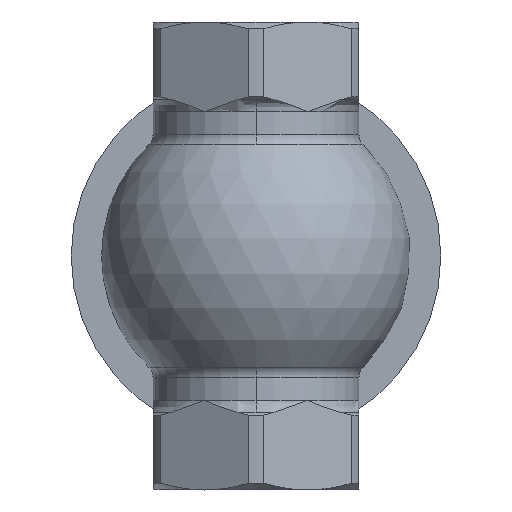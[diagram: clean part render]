
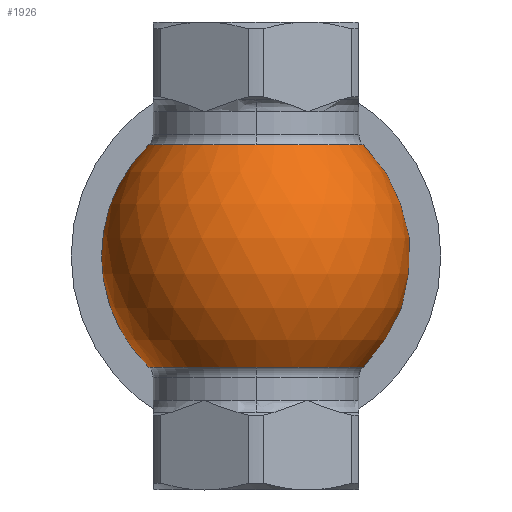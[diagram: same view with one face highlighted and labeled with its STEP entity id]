
A CAD part, front view. The second image highlights one B-rep face of the part: STEP entity #1926.
In plain terms, the highlighted spherical face has radius 16.5 mm.
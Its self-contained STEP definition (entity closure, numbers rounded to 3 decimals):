
#39=SPHERICAL_SURFACE('',#2147,16.5);
#151=FACE_BOUND('',#545,.T.);
#410=FACE_OUTER_BOUND('',#544,.T.);
#544=EDGE_LOOP('',(#1419,#1420,#1421,#1422,#1423,#1424,#1425,#1426));
#545=EDGE_LOOP('',(#1427));
#670=CIRCLE('',#2074,11.5);
#714=CIRCLE('',#2146,11.458);
#715=CIRCLE('',#2148,11.458);
#716=CIRCLE('',#2149,16.5);
#717=CIRCLE('',#2150,11.458);
#718=CIRCLE('',#2151,11.458);
#719=CIRCLE('',#2152,11.458);
#720=CIRCLE('',#2153,11.458);
#816=VERTEX_POINT('',#2992);
#875=VERTEX_POINT('',#3272);
#876=VERTEX_POINT('',#3274);
#877=VERTEX_POINT('',#3278);
#878=VERTEX_POINT('',#3279);
#879=VERTEX_POINT('',#3281);
#880=VERTEX_POINT('',#3285);
#1002=EDGE_CURVE('',#816,#816,#670,.T.);
#1094=EDGE_CURVE('',#876,#875,#714,.T.);
#1095=EDGE_CURVE('',#877,#878,#715,.T.);
#1096=EDGE_CURVE('',#878,#879,#716,.T.);
#1097=EDGE_CURVE('',#875,#879,#717,.T.);
#1098=EDGE_CURVE('',#879,#876,#718,.T.);
#1099=EDGE_CURVE('',#878,#880,#719,.T.);
#1100=EDGE_CURVE('',#880,#877,#720,.T.);
#1419=ORIENTED_EDGE('',*,*,#1095,.T.);
#1420=ORIENTED_EDGE('',*,*,#1096,.T.);
#1421=ORIENTED_EDGE('',*,*,#1097,.F.);
#1422=ORIENTED_EDGE('',*,*,#1094,.F.);
#1423=ORIENTED_EDGE('',*,*,#1098,.F.);
#1424=ORIENTED_EDGE('',*,*,#1096,.F.);
#1425=ORIENTED_EDGE('',*,*,#1099,.T.);
#1426=ORIENTED_EDGE('',*,*,#1100,.T.);
#1427=ORIENTED_EDGE('',*,*,#1002,.T.);
#1926=ADVANCED_FACE('',(#410,#151),#39,.T.);
#2074=AXIS2_PLACEMENT_3D('',#2994,#2366,#2367);
#2146=AXIS2_PLACEMENT_3D('',#3276,#2526,#2527);
#2147=AXIS2_PLACEMENT_3D('',#3277,#2528,#2529);
#2148=AXIS2_PLACEMENT_3D('',#3280,#2530,#2531);
#2149=AXIS2_PLACEMENT_3D('',#3282,#2532,#2533);
#2150=AXIS2_PLACEMENT_3D('',#3283,#2534,#2535);
#2151=AXIS2_PLACEMENT_3D('',#3284,#2536,#2537);
#2152=AXIS2_PLACEMENT_3D('',#3286,#2538,#2539);
#2153=AXIS2_PLACEMENT_3D('',#3287,#2540,#2541);
#2366=DIRECTION('center_axis',(0.,0.,-1.));
#2367=DIRECTION('ref_axis',(0.,1.,0.));
#2526=DIRECTION('center_axis',(0.,-1.,0.));
#2527=DIRECTION('ref_axis',(0.,0.,-1.));
#2528=DIRECTION('center_axis',(0.,-1.,0.));
#2529=DIRECTION('ref_axis',(1.,0.,0.));
#2530=DIRECTION('center_axis',(0.,-1.,0.));
#2531=DIRECTION('ref_axis',(0.,0.,-1.));
#2532=DIRECTION('center_axis',(0.,0.,
1.));
#2533=DIRECTION('ref_axis',(-1.,0.,0.));
#2534=DIRECTION('center_axis',(0.,-1.,0.));
#2535=DIRECTION('ref_axis',(0.,0.,-1.));
#2536=DIRECTION('center_axis',(0.,-1.,0.));
#2537=DIRECTION('ref_axis',(0.,0.,-1.));
#2538=DIRECTION('center_axis',(0.,-1.,0.));
#2539=DIRECTION('ref_axis',(0.,0.,-1.));
#2540=DIRECTION('center_axis',(0.,-1.,0.));
#2541=DIRECTION('ref_axis',(0.,0.,-1.));
#2992=CARTESIAN_POINT('',(0.,-11.5,11.832));
#2994=CARTESIAN_POINT('Origin',(0.,0.,
11.832));
#3272=CARTESIAN_POINT('',(0.,-11.873,11.458));
#3274=CARTESIAN_POINT('',(0.,-11.873,-11.458));
#3276=CARTESIAN_POINT('Origin',(0.,-11.873,
0.));
#3277=CARTESIAN_POINT('Origin',(0.,0.,
0.));
#3278=CARTESIAN_POINT('',(0.,11.873,11.458));
#3279=CARTESIAN_POINT('',(-11.458,11.873,0.));
#3280=CARTESIAN_POINT('Origin',(0.,11.873,0.));
#3281=CARTESIAN_POINT('',(-11.458,-11.873,0.));
#3282=CARTESIAN_POINT('Origin',(0.,0.,
0.));
#3283=CARTESIAN_POINT('Origin',(0.,-11.873,
0.));
#3284=CARTESIAN_POINT('Origin',(0.,-11.873,
0.));
#3285=CARTESIAN_POINT('',(0.,11.873,-11.458));
#3286=CARTESIAN_POINT('Origin',(0.,11.873,0.));
#3287=CARTESIAN_POINT('Origin',(0.,11.873,0.));
